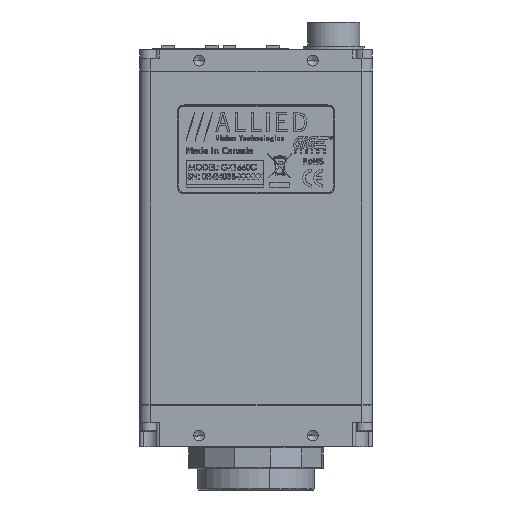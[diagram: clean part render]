
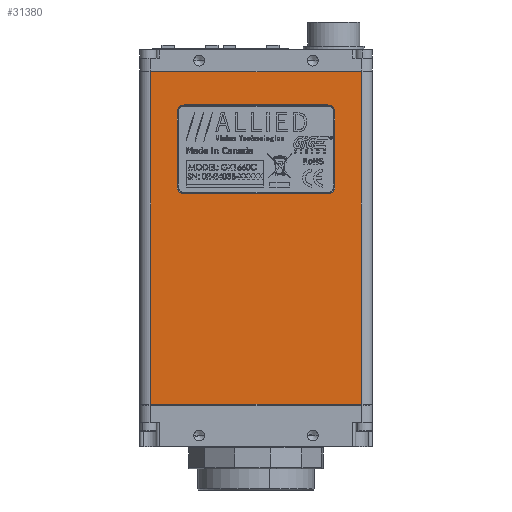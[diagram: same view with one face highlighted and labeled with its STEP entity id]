
A CAD part, front view. The second image highlights one B-rep face of the part: STEP entity #31380.
In plain terms, the highlighted planar face has unit normal (0, -1, 0).
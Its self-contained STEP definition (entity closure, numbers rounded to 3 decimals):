
#418 = VECTOR ( 'NONE', #155964, 1000. ) ;
#1132 = CARTESIAN_POINT ( 'NONE',  ( -16.447, -10.16, 11.748 ) ) ;
#2804 = DIRECTION ( 'NONE',  ( 0., 0., -1. ) ) ;
#11112 = VERTEX_POINT ( 'NONE', #156945 ) ;
#15052 = VECTOR ( 'NONE', #191283, 1000. ) ;
#17980 = DIRECTION ( 'NONE',  ( 1., 0., 0. ) ) ;
#18541 = VERTEX_POINT ( 'NONE', #123202 ) ;
#19067 = DIRECTION ( 'NONE',  ( 0., 0., 1. ) ) ;
#19546 = DIRECTION ( 'NONE',  ( 0., 1., 0. ) ) ;
#19978 = CARTESIAN_POINT ( 'NONE',  ( -18.034, -10.16, 11.748 ) ) ;
#20960 = CARTESIAN_POINT ( 'NONE',  ( 24.13, -10.16, 30.48 ) ) ;
#22487 = ORIENTED_EDGE ( 'NONE', *, *, #92581, .T. ) ;
#28757 = FACE_OUTER_BOUND ( 'NONE', #100399, .T. ) ;
#29294 = CARTESIAN_POINT ( 'NONE',  ( 24.13, -10.16, 10.16 ) ) ;
#31380 = ADVANCED_FACE ( 'NONE', ( #28757, #118521 ), #77558, .T. ) ;
#35251 = VERTEX_POINT ( 'NONE', #19978 ) ;
#38656 = CARTESIAN_POINT ( 'NONE',  ( -16.447, -10.16, 28.893 ) ) ;
#40873 = VECTOR ( 'NONE', #2804, 1000. ) ;
#46305 = DIRECTION ( 'NONE',  ( -1., 0., 0. ) ) ;
#48437 = AXIS2_PLACEMENT_3D ( 'NONE', #171646, #70511, #188567 ) ;
#49368 = CARTESIAN_POINT ( 'NONE',  ( 18.034, -10.16, 28.893 ) ) ;
#50928 = VERTEX_POINT ( 'NONE', #85389 ) ;
#53088 = EDGE_CURVE ( 'NONE', #191070, #108849, #86825, .T. ) ;
#53313 = VERTEX_POINT ( 'NONE', #75571 ) ;
#54606 = EDGE_CURVE ( 'NONE', #95147, #191070, #130672, .T. ) ;
#55601 = DIRECTION ( 'NONE',  ( 1., 0., 0. ) ) ;
#57626 = VERTEX_POINT ( 'NONE', #163456 ) ;
#59944 = LINE ( 'NONE', #207550, #15052 ) ;
#60900 = ORIENTED_EDGE ( 'NONE', *, *, #54606, .T. ) ;
#62198 = VERTEX_POINT ( 'NONE', #198720 ) ;
#63517 = DIRECTION ( 'NONE',  ( 0., -1., 0. ) ) ;
#63895 = ORIENTED_EDGE ( 'NONE', *, *, #80199, .T. ) ;
#65425 = CARTESIAN_POINT ( 'NONE',  ( 16.447, -10.16, 10.16 ) ) ;
#67886 = VECTOR ( 'NONE', #102115, 1000. ) ;
#68153 = CARTESIAN_POINT ( 'NONE',  ( 24.13, -10.16, -38.1 ) ) ;
#70511 = DIRECTION ( 'NONE',  ( 0., 1., 0. ) ) ;
#75571 = CARTESIAN_POINT ( 'NONE',  ( 24.13, -10.16, -38.1 ) ) ;
#77394 = ORIENTED_EDGE ( 'NONE', *, *, #217273, .T. ) ;
#77558 = PLANE ( 'NONE',  #191610 ) ;
#78746 = LINE ( 'NONE', #137118, #123704 ) ;
#80199 = EDGE_CURVE ( 'NONE', #57626, #211671, #85069, .T. ) ;
#83629 = VECTOR ( 'NONE', #46305, 1000. ) ;
#85069 = LINE ( 'NONE', #115303, #209111 ) ;
#85389 = CARTESIAN_POINT ( 'NONE',  ( -24.13, -10.16, -38.1 ) ) ;
#86825 = CIRCLE ( 'NONE', #48437, 1.587 ) ;
#91022 = EDGE_CURVE ( 'NONE', #18541, #62198, #179859, .T. ) ;
#92581 = EDGE_CURVE ( 'NONE', #50928, #53313, #202532, .T. ) ;
#95147 = VERTEX_POINT ( 'NONE', #49368 ) ;
#95178 = CARTESIAN_POINT ( 'NONE',  ( 18.034, -10.16, 11.748 ) ) ;
#100399 = EDGE_LOOP ( 'NONE', ( #63895, #148277, #22487, #77394 ) ) ;
#102115 = DIRECTION ( 'NONE',  ( 1., 0., 0. ) ) ;
#108849 = VERTEX_POINT ( 'NONE', #65425 ) ;
#108909 = AXIS2_PLACEMENT_3D ( 'NONE', #38656, #156701, #55601 ) ;
#111675 = EDGE_LOOP ( 'NONE', ( #197867, #179803, #197244, #60900, #185040, #211734, #120762, #189640 ) ) ;
#114915 = DIRECTION ( 'NONE',  ( 0., 0., -1. ) ) ;
#115303 = CARTESIAN_POINT ( 'NONE',  ( 24.13, -10.16, 38.1 ) ) ;
#116281 = CIRCLE ( 'NONE', #212909, 1.587 ) ;
#118521 = FACE_BOUND ( 'NONE', #111675, .T. ) ;
#119037 = DIRECTION ( 'NONE',  ( 0., 1., 0. ) ) ;
#120608 = CARTESIAN_POINT ( 'NONE',  ( 16.447, -10.16, 28.893 ) ) ;
#120762 = ORIENTED_EDGE ( 'NONE', *, *, #143845, .T. ) ;
#123202 = CARTESIAN_POINT ( 'NONE',  ( -16.447, -10.16, 30.48 ) ) ;
#123704 = VECTOR ( 'NONE', #19067, 1000. ) ;
#125379 = VECTOR ( 'NONE', #114915, 1000. ) ;
#128997 = EDGE_CURVE ( 'NONE', #211671, #50928, #130607, .T. ) ;
#130607 = LINE ( 'NONE', #187915, #40873 ) ;
#130672 = LINE ( 'NONE', #131958, #125379 ) ;
#131929 = EDGE_CURVE ( 'NONE', #35251, #156346, #59944, .T. ) ;
#131958 = CARTESIAN_POINT ( 'NONE',  ( 18.034, -10.16, -92.399 ) ) ;
#137118 = CARTESIAN_POINT ( 'NONE',  ( 24.13, -10.16, -92.399 ) ) ;
#137573 = DIRECTION ( 'NONE',  ( 1., 0., 0. ) ) ;
#143845 = EDGE_CURVE ( 'NONE', #11112, #35251, #183009, .T. ) ;
#148277 = ORIENTED_EDGE ( 'NONE', *, *, #128997, .T. ) ;
#155964 = DIRECTION ( 'NONE',  ( 1., 0., 0. ) ) ;
#156346 = VERTEX_POINT ( 'NONE', #206479 ) ;
#156701 = DIRECTION ( 'NONE',  ( 0., 1., 0. ) ) ;
#156945 = CARTESIAN_POINT ( 'NONE',  ( -16.447, -10.16, 10.16 ) ) ;
#158690 = AXIS2_PLACEMENT_3D ( 'NONE', #1132, #119037, #17980 ) ;
#163456 = CARTESIAN_POINT ( 'NONE',  ( 24.13, -10.16, 38.1 ) ) ;
#164596 = CARTESIAN_POINT ( 'NONE',  ( 24.13, -10.16, -92.399 ) ) ;
#166754 = CARTESIAN_POINT ( 'NONE',  ( -24.13, -10.16, 38.1 ) ) ;
#166856 = EDGE_CURVE ( 'NONE', #156346, #18541, #205445, .T. ) ;
#171646 = CARTESIAN_POINT ( 'NONE',  ( 16.447, -10.16, 11.748 ) ) ;
#176430 = EDGE_CURVE ( 'NONE', #62198, #95147, #116281, .T. ) ;
#179803 = ORIENTED_EDGE ( 'NONE', *, *, #91022, .T. ) ;
#179859 = LINE ( 'NONE', #20960, #418 ) ;
#181567 = DIRECTION ( 'NONE',  ( 1., 0., 0. ) ) ;
#182496 = DIRECTION ( 'NONE',  ( -1., 0., 0. ) ) ;
#183009 = CIRCLE ( 'NONE', #158690, 1.587 ) ;
#185040 = ORIENTED_EDGE ( 'NONE', *, *, #53088, .T. ) ;
#187915 = CARTESIAN_POINT ( 'NONE',  ( -24.13, -10.16, -92.399 ) ) ;
#188567 = DIRECTION ( 'NONE',  ( 1., 0., 0. ) ) ;
#189287 = LINE ( 'NONE', #29294, #83629 ) ;
#189640 = ORIENTED_EDGE ( 'NONE', *, *, #131929, .T. ) ;
#191070 = VERTEX_POINT ( 'NONE', #95178 ) ;
#191283 = DIRECTION ( 'NONE',  ( 0., 0., 1. ) ) ;
#191610 = AXIS2_PLACEMENT_3D ( 'NONE', #164596, #63517, #181567 ) ;
#197244 = ORIENTED_EDGE ( 'NONE', *, *, #176430, .T. ) ;
#197867 = ORIENTED_EDGE ( 'NONE', *, *, #166856, .T. ) ;
#198350 = EDGE_CURVE ( 'NONE', #108849, #11112, #189287, .T. ) ;
#198720 = CARTESIAN_POINT ( 'NONE',  ( 16.447, -10.16, 30.48 ) ) ;
#202532 = LINE ( 'NONE', #68153, #67886 ) ;
#205445 = CIRCLE ( 'NONE', #108909, 1.587 ) ;
#206479 = CARTESIAN_POINT ( 'NONE',  ( -18.034, -10.16, 28.893 ) ) ;
#207550 = CARTESIAN_POINT ( 'NONE',  ( -18.034, -10.16, -92.399 ) ) ;
#209111 = VECTOR ( 'NONE', #182496, 1000. ) ;
#211671 = VERTEX_POINT ( 'NONE', #166754 ) ;
#211734 = ORIENTED_EDGE ( 'NONE', *, *, #198350, .T. ) ;
#212909 = AXIS2_PLACEMENT_3D ( 'NONE', #120608, #19546, #137573 ) ;
#217273 = EDGE_CURVE ( 'NONE', #53313, #57626, #78746, .T. ) ;
